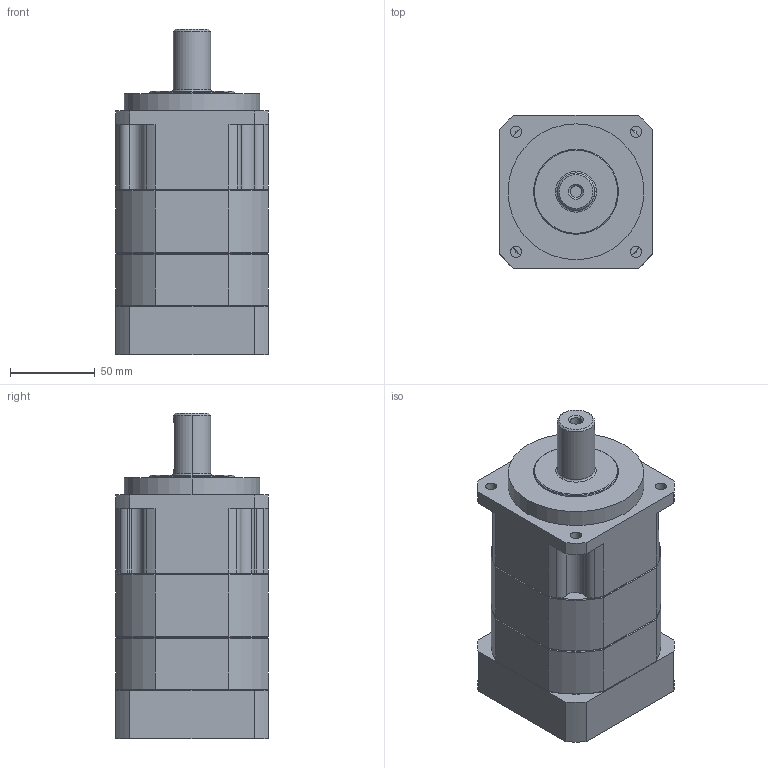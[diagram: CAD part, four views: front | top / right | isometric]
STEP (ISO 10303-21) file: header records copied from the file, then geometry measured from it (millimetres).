
FILE_DESCRIPTION (( 'STEP AP214' ), '1' );
FILE_NAME ('PAB-090-L2-S2-P1 19-70-90-M5.STEP', '2024-01-24T08:28:58', ( '微软用户' ), ( '微软中国' ), 'SwSTEP 2.0', 'SolidWorks 2018', '' );
FILE_SCHEMA (( 'AUTOMOTIVE_DESIGN' ));
Length unit declared in the file: millimetre
Products named in the file (1): PAB-090-L2-S2-P1 19-70-90-M5
Bounding box: 90 x 90 x 191.5 mm (x, y, z)
Volume: 1064672.9 mm3; surface area: 79376.2 mm2
Topology: 1 solids, 1 shells, 192 faces, 443 edges, 266 vertices
Faces by surface type: cylinder 75, plane 69, cone 46, torus 2
Entity records: 5551 total; most frequent: CARTESIAN_POINT 1085, DIRECTION 987, ORIENTED_EDGE 886, EDGE_CURVE 443, AXIS2_PLACEMENT_3D 394, VERTEX_POINT 266, EDGE_LOOP 213, CIRCLE 201
